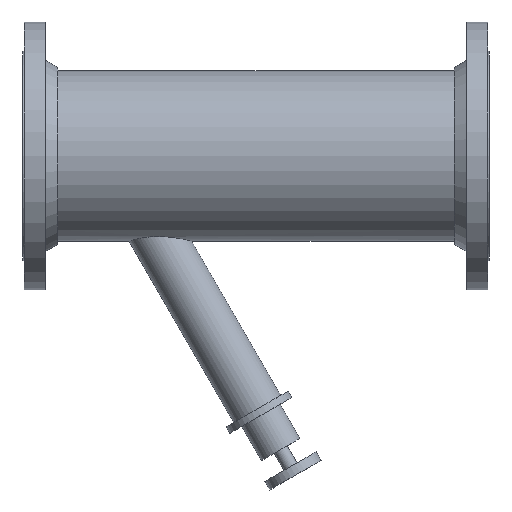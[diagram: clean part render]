
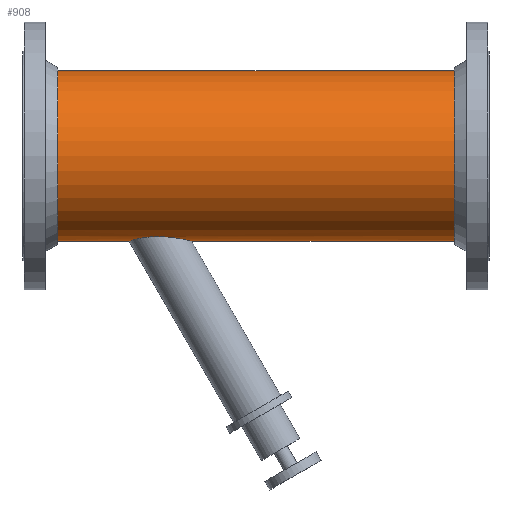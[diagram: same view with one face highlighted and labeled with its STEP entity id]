
A CAD part, top view. The second image highlights one B-rep face of the part: STEP entity #908.
In plain terms, the highlighted cylindrical face has radius 109.537 mm (diameter 219.075 mm), a full revolution.
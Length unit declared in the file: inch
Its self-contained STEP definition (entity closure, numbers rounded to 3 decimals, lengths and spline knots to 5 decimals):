
#45=B_SPLINE_CURVE_WITH_KNOTS('',3,(#1569,#1570,#1571,#1572,#1573,#1574,
#1575,#1576,#1577,#1578,#1579,#1580,#1581,#1582,#1583,#1584,#1585,#1586,
#1587,#1588,#1589,#1590,#1591,#1592,#1593,#1594,#1595,#1596,#1597,#1598,
#1599,#1600,#1601,#1602),.UNSPECIFIED.,.F.,.F.,(4,2,2,2,2,2,2,2,2,2,2,2,
2,2,2,2,4),(5.94445,6.60936,7.27426,7.93916,
8.60406,9.42527,10.24648,11.0677,11.88891,
12.61026,13.33162,14.05297,14.77432,15.42719,
16.08005,16.73292,17.38578),.UNSPECIFIED.);
#46=B_SPLINE_CURVE_WITH_KNOTS('',3,(#1605,#1606,#1607,#1608,#1609,#1610,
#1611,#1612,#1613,#1614,#1615,#1616,#1617,#1618,#1619,#1620,#1621,#1622),
 .UNSPECIFIED.,.F.,.F.,(4,2,2,2,2,2,2,2,4),(17.38578,18.03864,
18.69151,19.34437,19.99724,20.71859,21.43994,
22.1613,22.88265),.UNSPECIFIED.);
#47=B_SPLINE_CURVE_WITH_KNOTS('',3,(#1623,#1624,#1625,#1626,#1627,#1628,
#1629,#1630,#1631,#1632,#1633,#1634,#1635,#1636,#1637,#1638,#1639,#1640),
 .UNSPECIFIED.,.F.,.F.,(4,2,2,2,2,2,2,2,4),(0.,0.82121,1.64243,
2.46364,3.28485,3.94975,4.61465,5.27955,
5.94445),.UNSPECIFIED.);
#69=CYLINDRICAL_SURFACE('',#1034,4.3125);
#162=FACE_OUTER_BOUND('',#243,.T.);
#243=EDGE_LOOP('',(#768,#769,#770,#771,#772,#773,#774,#775,#776,#777,#778));
#283=LINE('',#1567,#313);
#284=LINE('',#1603,#314);
#313=VECTOR('',#1292,4.3125);
#314=VECTOR('',#1293,4.3125);
#368=CIRCLE('',#1012,4.3125);
#369=CIRCLE('',#1013,4.3125);
#372=CIRCLE('',#1017,4.3125);
#373=CIRCLE('',#1018,4.3125);
#450=VERTEX_POINT('',#1524);
#451=VERTEX_POINT('',#1525);
#454=VERTEX_POINT('',#1533);
#455=VERTEX_POINT('',#1534);
#466=VERTEX_POINT('',#1566);
#467=VERTEX_POINT('',#1568);
#468=VERTEX_POINT('',#1604);
#555=EDGE_CURVE('',#450,#451,#368,.T.);
#556=EDGE_CURVE('',#451,#450,#369,.T.);
#559=EDGE_CURVE('',#454,#455,#372,.T.);
#560=EDGE_CURVE('',#455,#454,#373,.T.);
#574=EDGE_CURVE('',#455,#466,#283,.T.);
#575=EDGE_CURVE('',#466,#467,#45,.T.);
#576=EDGE_CURVE('',#467,#451,#284,.T.);
#577=EDGE_CURVE('',#467,#468,#46,.T.);
#578=EDGE_CURVE('',#468,#466,#47,.T.);
#768=ORIENTED_EDGE('',*,*,#559,.T.);
#769=ORIENTED_EDGE('',*,*,#574,.T.);
#770=ORIENTED_EDGE('',*,*,#575,.T.);
#771=ORIENTED_EDGE('',*,*,#576,.T.);
#772=ORIENTED_EDGE('',*,*,#556,.T.);
#773=ORIENTED_EDGE('',*,*,#555,.T.);
#774=ORIENTED_EDGE('',*,*,#576,.F.);
#775=ORIENTED_EDGE('',*,*,#577,.T.);
#776=ORIENTED_EDGE('',*,*,#578,.T.);
#777=ORIENTED_EDGE('',*,*,#574,.F.);
#778=ORIENTED_EDGE('',*,*,#560,.T.);
#908=ADVANCED_FACE('',(#162),#69,.T.);
#1012=AXIS2_PLACEMENT_3D('',#1526,#1243,#1244);
#1013=AXIS2_PLACEMENT_3D('',#1527,#1245,#1246);
#1017=AXIS2_PLACEMENT_3D('',#1535,#1253,#1254);
#1018=AXIS2_PLACEMENT_3D('',#1536,#1255,#1256);
#1034=AXIS2_PLACEMENT_3D('',#1565,#1290,#1291);
#1243=DIRECTION('center_axis',(1.,0.,0.));
#1244=DIRECTION('ref_axis',(0.,1.,0.));
#1245=DIRECTION('center_axis',(1.,0.,0.));
#1246=DIRECTION('ref_axis',(0.,1.,0.));
#1253=DIRECTION('center_axis',(-1.,0.,0.));
#1254=DIRECTION('ref_axis',(0.,1.,0.));
#1255=DIRECTION('center_axis',(-1.,0.,0.));
#1256=DIRECTION('ref_axis',(0.,1.,0.));
#1290=DIRECTION('center_axis',(1.,0.,0.));
#1291=DIRECTION('ref_axis',(0.,1.,0.));
#1292=DIRECTION('',(-1.,0.,0.));
#1293=DIRECTION('',(-1.,0.,0.));
#1524=CARTESIAN_POINT('',(-10.06,4.3125,0.));
#1525=CARTESIAN_POINT('',(-10.06,-4.3125,0.));
#1526=CARTESIAN_POINT('Origin',(-10.06,0.,0.));
#1527=CARTESIAN_POINT('Origin',(-10.06,0.,0.));
#1533=CARTESIAN_POINT('',(10.06,4.3125,0.));
#1534=CARTESIAN_POINT('',(10.06,-4.3125,0.));
#1535=CARTESIAN_POINT('Origin',(10.06,0.,0.));
#1536=CARTESIAN_POINT('Origin',(10.06,0.,0.));
#1565=CARTESIAN_POINT('Origin',(0.,0.,0.));
#1566=CARTESIAN_POINT('',(-3.26399,-4.3125,0.));
#1567=CARTESIAN_POINT('',(0.,-4.3125,0.));
#1568=CARTESIAN_POINT('',(-6.43942,-4.3125,0.));
#1569=CARTESIAN_POINT('Ctrl Pts',(-3.26399,-4.3125,0.));
#1570=CARTESIAN_POINT('Ctrl Pts',(-3.26399,-4.3125,-0.08726));
#1571=CARTESIAN_POINT('Ctrl Pts',(-3.2753,-4.30979,-0.17599));
#1572=CARTESIAN_POINT('Ctrl Pts',(-3.3205,-4.29918,-0.34973));
#1573=CARTESIAN_POINT('Ctrl Pts',(-3.35436,-4.2913,-0.43473));
#1574=CARTESIAN_POINT('Ctrl Pts',(-3.44052,-4.27196,-0.59547));
#1575=CARTESIAN_POINT('Ctrl Pts',(-3.49288,-4.2605,-0.67139));
#1576=CARTESIAN_POINT('Ctrl Pts',(-3.6096,-4.23625,-0.81046));
#1577=CARTESIAN_POINT('Ctrl Pts',(-3.67395,-4.22347,-0.87362));
#1578=CARTESIAN_POINT('Ctrl Pts',(-3.82157,-4.19601,-0.99807));
#1579=CARTESIAN_POINT('Ctrl Pts',(-3.91259,-4.18027,-1.06127));
#1580=CARTESIAN_POINT('Ctrl Pts',(-4.108,-4.15054,-1.17216));
#1581=CARTESIAN_POINT('Ctrl Pts',(-4.21238,-4.13657,-1.21987));
#1582=CARTESIAN_POINT('Ctrl Pts',(-4.42809,-4.11305,-1.29695));
#1583=CARTESIAN_POINT('Ctrl Pts',(-4.53951,-4.10352,-1.32635));
#1584=CARTESIAN_POINT('Ctrl Pts',(-4.7624,-4.0907,-1.36539));
#1585=CARTESIAN_POINT('Ctrl Pts',(-4.87388,-4.08742,-1.375));
#1586=CARTESIAN_POINT('Ctrl Pts',(-5.07632,-4.08742,-1.375));
#1587=CARTESIAN_POINT('Ctrl Pts',(-5.17465,-4.08996,-1.36755));
#1588=CARTESIAN_POINT('Ctrl Pts',(-5.3705,-4.1009,-1.33438));
#1589=CARTESIAN_POINT('Ctrl Pts',(-5.46803,-4.10931,-1.30864));
#1590=CARTESIAN_POINT('Ctrl Pts',(-5.65477,-4.13103,-1.23838));
#1591=CARTESIAN_POINT('Ctrl Pts',(-5.74415,-4.14434,-1.19379));
#1592=CARTESIAN_POINT('Ctrl Pts',(-5.90865,-4.17329,-1.08826));
#1593=CARTESIAN_POINT('Ctrl Pts',(-5.98377,-4.1889,-1.02731));
#1594=CARTESIAN_POINT('Ctrl Pts',(-6.10944,-4.21773,-0.90122));
#1595=CARTESIAN_POINT('Ctrl Pts',(-6.16524,-4.23187,-0.83341));
#1596=CARTESIAN_POINT('Ctrl Pts',(-6.26317,-4.25835,-0.6854));
#1597=CARTESIAN_POINT('Ctrl Pts',(-6.30533,-4.27065,-0.60522));
#1598=CARTESIAN_POINT('Ctrl Pts',(-6.37283,-4.29106,-0.43771));
#1599=CARTESIAN_POINT('Ctrl Pts',(-6.39823,-4.29916,-0.35026));
#1600=CARTESIAN_POINT('Ctrl Pts',(-6.43153,-4.30988,-0.17424));
#1601=CARTESIAN_POINT('Ctrl Pts',(-6.43942,-4.3125,-0.08568));
#1602=CARTESIAN_POINT('Ctrl Pts',(-6.43942,-4.3125,0.));
#1603=CARTESIAN_POINT('',(0.,-4.3125,0.));
#1604=CARTESIAN_POINT('',(-4.98165,-4.08742,1.375));
#1605=CARTESIAN_POINT('Ctrl Pts',(-6.43942,-4.3125,0.));
#1606=CARTESIAN_POINT('Ctrl Pts',(-6.43942,-4.3125,0.08568));
#1607=CARTESIAN_POINT('Ctrl Pts',(-6.43153,-4.30988,0.17424));
#1608=CARTESIAN_POINT('Ctrl Pts',(-6.39823,-4.29916,0.35026));
#1609=CARTESIAN_POINT('Ctrl Pts',(-6.37283,-4.29106,0.43771));
#1610=CARTESIAN_POINT('Ctrl Pts',(-6.30533,-4.27065,0.60522));
#1611=CARTESIAN_POINT('Ctrl Pts',(-6.26317,-4.25835,0.6854));
#1612=CARTESIAN_POINT('Ctrl Pts',(-6.16524,-4.23187,0.83341));
#1613=CARTESIAN_POINT('Ctrl Pts',(-6.10944,-4.21773,0.90122));
#1614=CARTESIAN_POINT('Ctrl Pts',(-5.98377,-4.1889,1.02731));
#1615=CARTESIAN_POINT('Ctrl Pts',(-5.90865,-4.17329,1.08826));
#1616=CARTESIAN_POINT('Ctrl Pts',(-5.74415,-4.14434,1.19379));
#1617=CARTESIAN_POINT('Ctrl Pts',(-5.65477,-4.13103,1.23838));
#1618=CARTESIAN_POINT('Ctrl Pts',(-5.46803,-4.10931,1.30864));
#1619=CARTESIAN_POINT('Ctrl Pts',(-5.3705,-4.1009,1.33438));
#1620=CARTESIAN_POINT('Ctrl Pts',(-5.17465,-4.08996,1.36755));
#1621=CARTESIAN_POINT('Ctrl Pts',(-5.07632,-4.08742,1.375));
#1622=CARTESIAN_POINT('Ctrl Pts',(-4.98165,-4.08742,1.375));
#1623=CARTESIAN_POINT('Ctrl Pts',(-4.98165,-4.08742,1.375));
#1624=CARTESIAN_POINT('Ctrl Pts',(-4.87388,-4.08742,1.375));
#1625=CARTESIAN_POINT('Ctrl Pts',(-4.7624,-4.0907,1.36539));
#1626=CARTESIAN_POINT('Ctrl Pts',(-4.53951,-4.10352,1.32635));
#1627=CARTESIAN_POINT('Ctrl Pts',(-4.42809,-4.11305,1.29695));
#1628=CARTESIAN_POINT('Ctrl Pts',(-4.21238,-4.13657,1.21987));
#1629=CARTESIAN_POINT('Ctrl Pts',(-4.108,-4.15054,1.17216));
#1630=CARTESIAN_POINT('Ctrl Pts',(-3.91259,-4.18027,1.06127));
#1631=CARTESIAN_POINT('Ctrl Pts',(-3.82157,-4.19601,0.99807));
#1632=CARTESIAN_POINT('Ctrl Pts',(-3.67395,-4.22347,0.87362));
#1633=CARTESIAN_POINT('Ctrl Pts',(-3.6096,-4.23625,0.81046));
#1634=CARTESIAN_POINT('Ctrl Pts',(-3.49288,-4.2605,0.67139));
#1635=CARTESIAN_POINT('Ctrl Pts',(-3.44052,-4.27196,0.59547));
#1636=CARTESIAN_POINT('Ctrl Pts',(-3.35436,-4.2913,0.43473));
#1637=CARTESIAN_POINT('Ctrl Pts',(-3.3205,-4.29918,0.34973));
#1638=CARTESIAN_POINT('Ctrl Pts',(-3.2753,-4.30979,0.17599));
#1639=CARTESIAN_POINT('Ctrl Pts',(-3.26399,-4.3125,0.08726));
#1640=CARTESIAN_POINT('Ctrl Pts',(-3.26399,-4.3125,0.));
